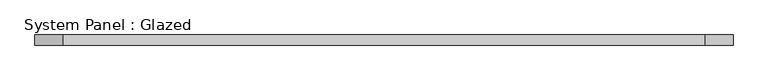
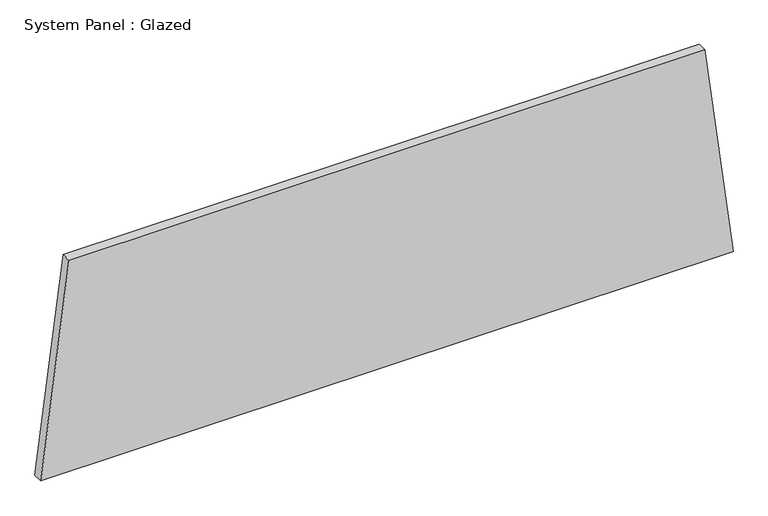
"""IFC4 building model written with IfcOpenShell, lengths in millimetres: plate geometry, System Panel : Glazed."""

from ifc_helpers import new_model, si_unit, frame, origin, place, context, project, spatial, polyline, outline, extrude, source, transform, mapped, element, save


def system_panel_glazed_27e063cc(model_context):
    return source(origin(), model_context, "Body", "SweptSolid", [
        extrude(outline(polyline([(0.0, -878.2546532), (0.0, 878.2546532), (566.7196715, 806.8616504), (566.7196715, -806.8616504), (0.0, -878.2546532)])), frame((0.0, 19.05, 0.0), z_axis=(0.0, 1.0, 0.0), x_axis=(0.0, 0.0, 1.0)), (0.0, 0.0, 1.0), 25.4),
    ])


if __name__ == "__main__":
    model = new_model("IFC4")
    model_context = context("Model", 3, world=origin())
    ifc_project = project(units=[si_unit("LENGTHUNIT", "METRE", prefix="MILLI")], contexts=[model_context])
    site = spatial("IfcSite", under=ifc_project)
    building = spatial("IfcBuilding", under=site)
    placement = place(None, origin())
    system_panel_glazed_shape = system_panel_glazed_27e063cc(model_context)
    element("IfcPlate", 1, ObjectType="System Panel : Glazed", at=placement, inside=building, context=model_context, shape_type="MappedRepresentation", body=[
        mapped(system_panel_glazed_shape, transform((0.0, 0.0, 0.0), x_axis=(1.0, 0.0, 0.0), y_axis=(0.0, 1.0, 0.0), z_axis=(0.0, 0.0, 1.0))),
    ])
    save(model, "model.ifc")
